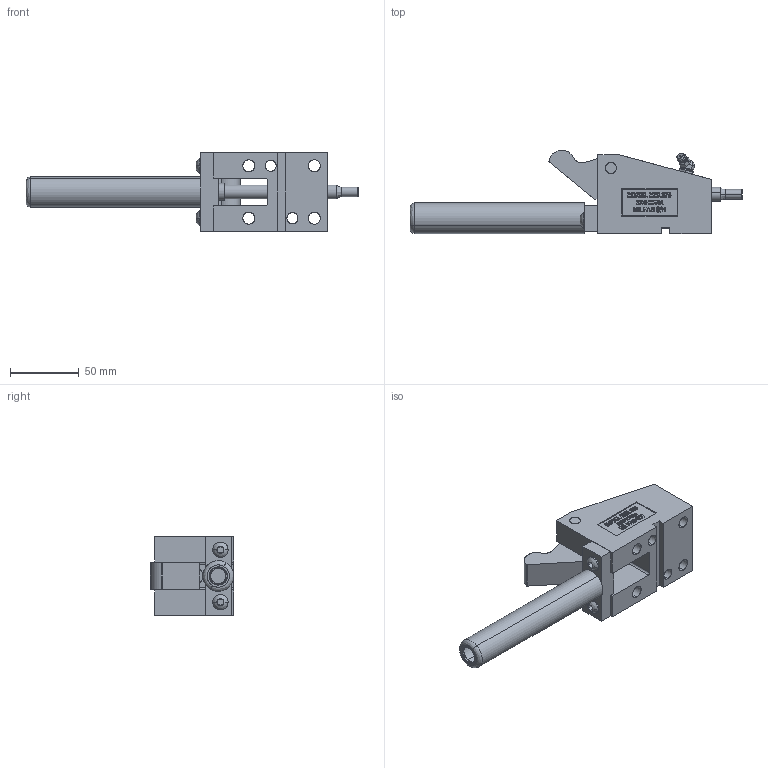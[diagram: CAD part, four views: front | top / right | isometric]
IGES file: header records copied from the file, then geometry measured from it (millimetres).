
Start section: SolidWorks IGES file using analytic representation for surfaces
Global section: file name: Y:\3\MOL37545\OPEN\MOL37545-O.IGS; native system: SolidWorks 2006 by SolidWorks Corporation; preprocessor: SolidWorks 2006 by SolidWorks Corporation; author: Jim; date: 090125.181152; units: inch
Bounding box: 241.3 x 60.44 x 57.15 mm (x, y, z)
Surface area: 70530.9 mm2 (no closed solid volume)
Topology: 0 solids, 0 shells, 599 faces, 7561 edges, 7559 vertices
Faces by surface type: bspline 473, revolution 126
